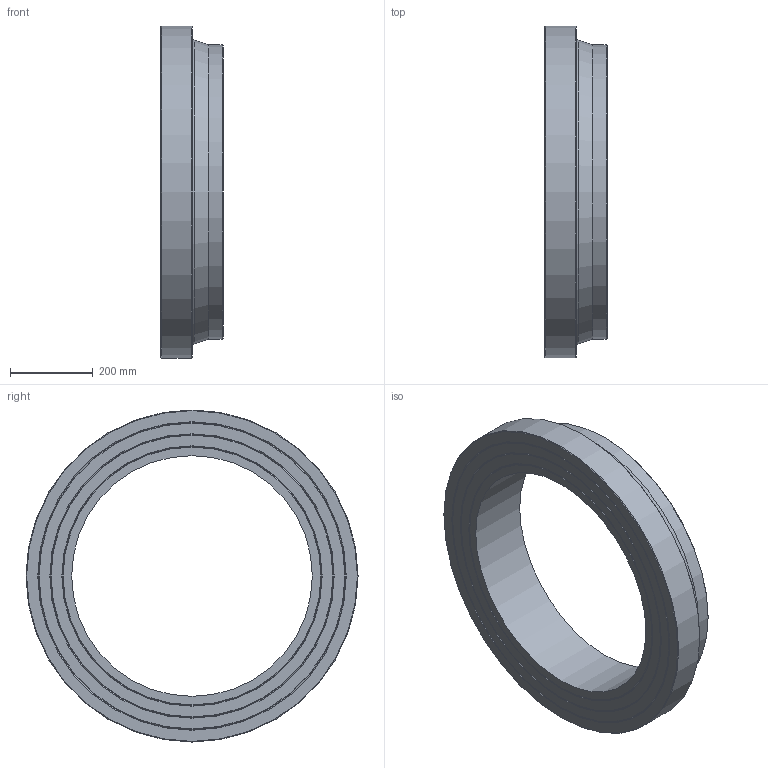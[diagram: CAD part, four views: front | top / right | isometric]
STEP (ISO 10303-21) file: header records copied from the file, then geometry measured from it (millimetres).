
FILE_DESCRIPTION(/* description */ ('Unknown'),/* implementation_level */ '2;1');
FILE_NAME(/* name */ 'CCP710C',/* time_stamp */ '2022-04-04T15:35:26+02:00',/* author */ ('Unknown'),/* organization */ ('Unknown'),/* preprocessor_version */ 'ST-DEVELOPER v18.1',/* originating_system */ 'Solid Edge',/* authorisation */ 'Unknown');
FILE_SCHEMA (('AUTOMOTIVE_DESIGN {1 0 10303 214 3 1 1}'));
Length unit declared in the file: millimetre
Products named in the file (1): CCP710C
Bounding box: 150 x 801 x 801 mm (x, y, z)
Volume: 28347561.7 mm3; surface area: 1077136.2 mm2
Topology: 1 solids, 1 shells, 20 faces, 35 edges, 21 vertices
Faces by surface type: cone 10, plane 6, cylinder 3, torus 1
Full cylindrical faces by diameter (mm): 580.8 x1, 710 x1, 801 x1
Entity records: 438 total; most frequent: DIRECTION 82, CARTESIAN_POINT 61, AXIS2_PLACEMENT_3D 41, ORIENTED_EDGE 40, EDGE_LOOP 40, FACE_BOUND 40, EDGE_CURVE 20, VERTEX_POINT 20
